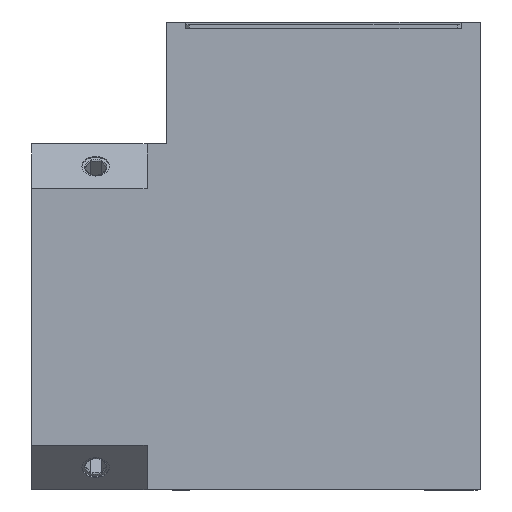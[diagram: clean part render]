
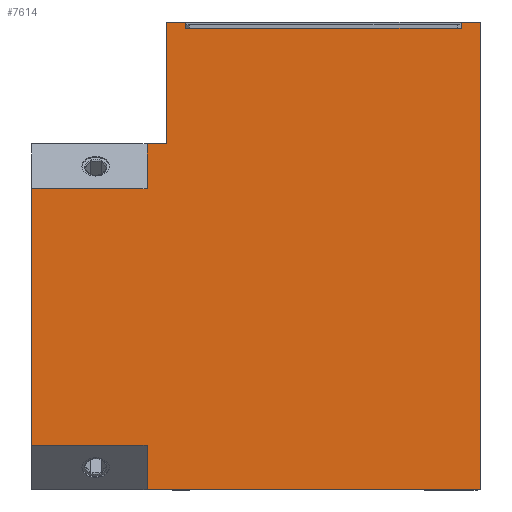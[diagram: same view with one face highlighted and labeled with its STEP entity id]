
A CAD part, left-side view. The second image highlights one B-rep face of the part: STEP entity #7614.
In plain terms, the highlighted planar face has unit normal (-1, 0, 0).
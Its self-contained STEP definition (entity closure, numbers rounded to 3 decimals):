
#23 = CARTESIAN_POINT ( 'NONE',  ( -13.5, 10.75, 22.5 ) ) ;
#51 = CARTESIAN_POINT ( 'NONE',  ( -13.5, 12.25, 23. ) ) ;
#54 = VERTEX_POINT ( 'NONE', #4437 ) ;
#83 = CARTESIAN_POINT ( 'NONE',  ( -13.5, 22.75, 10. ) ) ;
#209 = DIRECTION ( 'NONE',  ( 0., 0., 1. ) ) ;
#265 = VERTEX_POINT ( 'NONE', #316 ) ;
#291 = ORIENTED_EDGE ( 'NONE', *, *, #7864, .T. ) ;
#316 = CARTESIAN_POINT ( 'NONE',  ( -13.5, -12.25, -13.5 ) ) ;
#636 = CARTESIAN_POINT ( 'NONE',  ( -13.5, 22.75, 13.5 ) ) ;
#809 = EDGE_CURVE ( 'NONE', #2620, #1347, #8681, .T. ) ;
#900 = DIRECTION ( 'NONE',  ( 0., -1., 0. ) ) ;
#906 = FACE_OUTER_BOUND ( 'NONE', #7820, .T. ) ;
#908 = DIRECTION ( 'NONE',  ( 0., 1., 0. ) ) ;
#969 = CARTESIAN_POINT ( 'NONE',  ( -13.5, 13.75, 0. ) ) ;
#976 = ORIENTED_EDGE ( 'NONE', *, *, #8411, .F. ) ;
#1130 = VECTOR ( 'NONE', #5853, 1000. ) ;
#1199 = VECTOR ( 'NONE', #4953, 1000. ) ;
#1347 = VERTEX_POINT ( 'NONE', #4386 ) ;
#1372 = VERTEX_POINT ( 'NONE', #5161 ) ;
#1416 = EDGE_CURVE ( 'NONE', #3906, #4186, #1642, .T. ) ;
#1430 = VERTEX_POINT ( 'NONE', #4841 ) ;
#1501 = DIRECTION ( 'NONE',  ( 0., 0., 1. ) ) ;
#1642 = LINE ( 'NONE', #5615, #8241 ) ;
#1790 = AXIS2_PLACEMENT_3D ( 'NONE', #7194, #7814, #7912 ) ;
#1963 = VERTEX_POINT ( 'NONE', #4402 ) ;
#2003 = EDGE_CURVE ( 'NONE', #265, #9437, #6925, .T. ) ;
#2053 = VERTEX_POINT ( 'NONE', #9255 ) ;
#2079 = EDGE_CURVE ( 'NONE', #54, #1963, #2900, .T. ) ;
#2085 = EDGE_CURVE ( 'NONE', #1372, #7981, #3732, .T. ) ;
#2269 = CARTESIAN_POINT ( 'NONE',  ( -13.5, -10.75, 22.5 ) ) ;
#2306 = EDGE_CURVE ( 'NONE', #7981, #1430, #8926, .T. ) ;
#2478 = DIRECTION ( 'NONE',  ( 0., 0., -1. ) ) ;
#2550 = ORIENTED_EDGE ( 'NONE', *, *, #8384, .F. ) ;
#2604 = DIRECTION ( 'NONE',  ( 0., 0., 1. ) ) ;
#2620 = VERTEX_POINT ( 'NONE', #8762 ) ;
#2803 = VECTOR ( 'NONE', #908, 1000. ) ;
#2853 = DIRECTION ( 'NONE',  ( 0., 0., -1. ) ) ;
#2900 = LINE ( 'NONE', #9149, #2965 ) ;
#2965 = VECTOR ( 'NONE', #6874, 1000. ) ;
#3040 = ORIENTED_EDGE ( 'NONE', *, *, #1416, .F. ) ;
#3309 = ORIENTED_EDGE ( 'NONE', *, *, #4020, .F. ) ;
#3377 = CARTESIAN_POINT ( 'NONE',  ( -13.5, 0., -10. ) ) ;
#3536 = CARTESIAN_POINT ( 'NONE',  ( -13.5, -10.75, 23. ) ) ;
#3657 = ORIENTED_EDGE ( 'NONE', *, *, #6170, .T. ) ;
#3732 = LINE ( 'NONE', #636, #8569 ) ;
#3744 = ORIENTED_EDGE ( 'NONE', *, *, #8485, .F. ) ;
#3906 = VERTEX_POINT ( 'NONE', #6582 ) ;
#3940 = VERTEX_POINT ( 'NONE', #23 ) ;
#3965 = CARTESIAN_POINT ( 'NONE',  ( -13.5, 13.75, 0. ) ) ;
#4020 = EDGE_CURVE ( 'NONE', #1963, #265, #9611, .T. ) ;
#4186 = VERTEX_POINT ( 'NONE', #9816 ) ;
#4187 = CARTESIAN_POINT ( 'NONE',  ( -13.5, 0., 10. ) ) ;
#4265 = ORIENTED_EDGE ( 'NONE', *, *, #5240, .T. ) ;
#4268 = VECTOR ( 'NONE', #209, 1000. ) ;
#4386 = CARTESIAN_POINT ( 'NONE',  ( -13.5, 10.75, 23. ) ) ;
#4402 = CARTESIAN_POINT ( 'NONE',  ( -13.5, -12.25, 23. ) ) ;
#4437 = CARTESIAN_POINT ( 'NONE',  ( -13.5, -10.75, 23. ) ) ;
#4588 = CARTESIAN_POINT ( 'NONE',  ( -13.5, 10.75, 23. ) ) ;
#4678 = LINE ( 'NONE', #3965, #5577 ) ;
#4762 = ORIENTED_EDGE ( 'NONE', *, *, #2085, .F. ) ;
#4841 = CARTESIAN_POINT ( 'NONE',  ( -13.5, 13.75, 10. ) ) ;
#4888 = LINE ( 'NONE', #969, #4268 ) ;
#4953 = DIRECTION ( 'NONE',  ( 0., -1., 0. ) ) ;
#5090 = ORIENTED_EDGE ( 'NONE', *, *, #2003, .F. ) ;
#5161 = CARTESIAN_POINT ( 'NONE',  ( -13.5, 22.75, -10. ) ) ;
#5229 = LINE ( 'NONE', #3536, #8702 ) ;
#5240 = EDGE_CURVE ( 'NONE', #3940, #1347, #10113, .T. ) ;
#5305 = VERTEX_POINT ( 'NONE', #2269 ) ;
#5376 = DIRECTION ( 'NONE',  ( 0., 1., 0. ) ) ;
#5547 = LINE ( 'NONE', #7857, #2803 ) ;
#5577 = VECTOR ( 'NONE', #6330, 1000. ) ;
#5615 = CARTESIAN_POINT ( 'NONE',  ( -13.5, 12.25, 13.5 ) ) ;
#5687 = ORIENTED_EDGE ( 'NONE', *, *, #2079, .F. ) ;
#5853 = DIRECTION ( 'NONE',  ( 0., 1., 0. ) ) ;
#6170 = EDGE_CURVE ( 'NONE', #5305, #3940, #5547, .T. ) ;
#6245 = VECTOR ( 'NONE', #2604, 1000. ) ;
#6318 = VECTOR ( 'NONE', #1501, 1000. ) ;
#6330 = DIRECTION ( 'NONE',  ( 0., 0., 1. ) ) ;
#6433 = VECTOR ( 'NONE', #5376, 1000. ) ;
#6535 = ORIENTED_EDGE ( 'NONE', *, *, #2306, .F. ) ;
#6582 = CARTESIAN_POINT ( 'NONE',  ( -13.5, 13.75, 13.5 ) ) ;
#6874 = DIRECTION ( 'NONE',  ( 0., -1., 0. ) ) ;
#6925 = LINE ( 'NONE', #8362, #6433 ) ;
#7038 = PLANE ( 'NONE',  #1790 ) ;
#7194 = CARTESIAN_POINT ( 'NONE',  ( -13.5, 0., 0. ) ) ;
#7351 = LINE ( 'NONE', #3377, #1130 ) ;
#7421 = ORIENTED_EDGE ( 'NONE', *, *, #809, .F. ) ;
#7614 = ADVANCED_FACE ( 'NONE', ( #906 ), #7038, .F. ) ;
#7724 = VECTOR ( 'NONE', #900, 1000. ) ;
#7754 = EDGE_CURVE ( 'NONE', #2053, #1372, #7351, .T. ) ;
#7796 = DIRECTION ( 'NONE',  ( 0., 0., 1. ) ) ;
#7814 = DIRECTION ( 'NONE',  ( 1., 0., 0. ) ) ;
#7820 = EDGE_LOOP ( 'NONE', ( #976, #6535, #4762, #9754, #2550, #5090, #3309, #5687, #291, #3657, #4265, #7421, #3744, #3040 ) ) ;
#7857 = CARTESIAN_POINT ( 'NONE',  ( -13.5, 10.75, 22.5 ) ) ;
#7864 = EDGE_CURVE ( 'NONE', #54, #5305, #5229, .T. ) ;
#7912 = DIRECTION ( 'NONE',  ( 0., 0., -1. ) ) ;
#7981 = VERTEX_POINT ( 'NONE', #83 ) ;
#8241 = VECTOR ( 'NONE', #8764, 1000. ) ;
#8362 = CARTESIAN_POINT ( 'NONE',  ( -13.5, 22.75, -13.5 ) ) ;
#8384 = EDGE_CURVE ( 'NONE', #9437, #2053, #4888, .T. ) ;
#8411 = EDGE_CURVE ( 'NONE', #1430, #3906, #4678, .T. ) ;
#8485 = EDGE_CURVE ( 'NONE', #4186, #2620, #9634, .T. ) ;
#8569 = VECTOR ( 'NONE', #7796, 1000. ) ;
#8657 = VECTOR ( 'NONE', #2478, 1000. ) ;
#8681 = LINE ( 'NONE', #8794, #7724 ) ;
#8702 = VECTOR ( 'NONE', #2853, 1000. ) ;
#8762 = CARTESIAN_POINT ( 'NONE',  ( -13.5, 12.25, 23. ) ) ;
#8764 = DIRECTION ( 'NONE',  ( 0., -1., 0. ) ) ;
#8794 = CARTESIAN_POINT ( 'NONE',  ( -13.5, -12.25, 23. ) ) ;
#8877 = CARTESIAN_POINT ( 'NONE',  ( -13.5, -12.25, -13.5 ) ) ;
#8926 = LINE ( 'NONE', #4187, #1199 ) ;
#9149 = CARTESIAN_POINT ( 'NONE',  ( -13.5, -12.25, 23. ) ) ;
#9225 = CARTESIAN_POINT ( 'NONE',  ( -13.5, 13.75, -13.5 ) ) ;
#9255 = CARTESIAN_POINT ( 'NONE',  ( -13.5, 13.75, -10. ) ) ;
#9437 = VERTEX_POINT ( 'NONE', #9225 ) ;
#9611 = LINE ( 'NONE', #8877, #8657 ) ;
#9634 = LINE ( 'NONE', #51, #6245 ) ;
#9754 = ORIENTED_EDGE ( 'NONE', *, *, #7754, .F. ) ;
#9816 = CARTESIAN_POINT ( 'NONE',  ( -13.5, 12.25, 13.5 ) ) ;
#10113 = LINE ( 'NONE', #4588, #6318 ) ;
